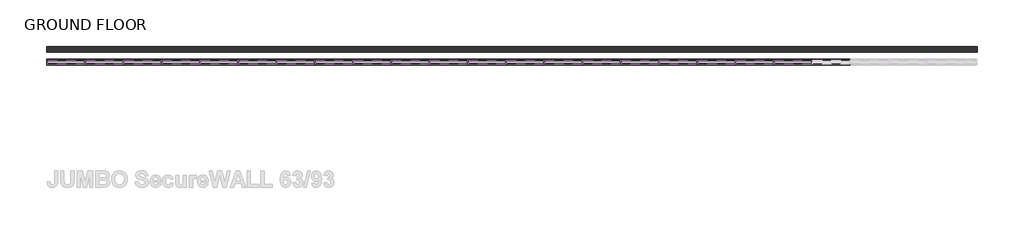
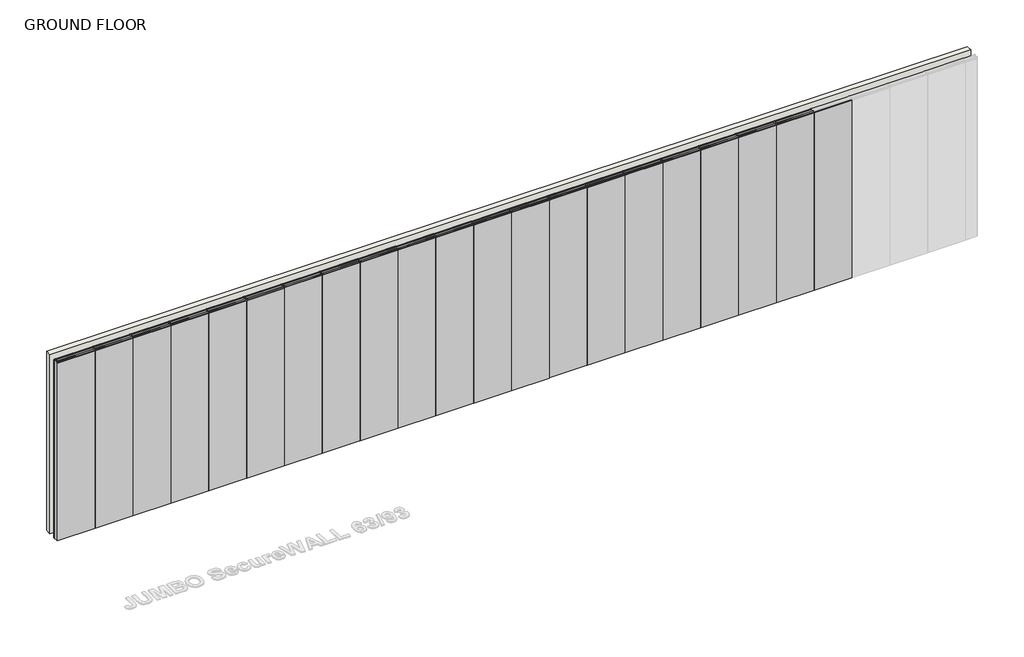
# One storey, part 1 of 2: 59 members, 21 plates, 1 wall.
"""IFC4 building model written with IfcOpenShell, lengths in millimetres."""

from ifc_helpers import new_model, si_unit, origin, origin_with_axes, place, context, project, spatial, polyline, outline, extrude, transform, mapped, element, save
from components import rectangular_mullion_stud_mullion_63mm_af775e70, rectangular_mullion_stud_mullion_63mm_2c4afd4c, rectangular_mullion_stud_mullion_63mm_ab3eab4e, rectangular_mullion_stud_mullion_63mm_08592bac, plate_2_layer_drywall_panels_with_galv_sheet_2_layer_15mm_8fcf15e8

model = new_model("IFC4")

# Units and contexts
model_context = context("Model", 3, world=origin())
ifc_project = project(units=[si_unit("LENGTHUNIT", "METRE", prefix="MILLI")], contexts=[model_context])

# Site, building, storey
site = spatial("IfcSite", under=ifc_project)
building = spatial("IfcBuilding", under=site)
storey = spatial("IfcBuildingStorey", under=building, Name="GROUND FLOOR", Elevation=0.0)

# Members
placement = place(None, origin())
rectangular_mullion_stud_mullion_63mm_shape = rectangular_mullion_stud_mullion_63mm_af775e70(model_context)
element("IfcMember", 1, ObjectType="Rectangular Mullion : Stud Mullion - 63mm", at=placement, inside=storey, context=model_context, shape_type="MappedRepresentation", body=[
    mapped(rectangular_mullion_stud_mullion_63mm_shape, transform((61654.5186508, -61621.4010443, 0.0), x_axis=(0.0, 0.0, -1.0), y_axis=(0.0, -1.0, 0.0), z_axis=(-1.0, 0.0, 0.0))),
])
element("IfcMember", 2, ObjectType="Rectangular Mullion : Stud Mullion - 63mm", at=placement, inside=storey, context=model_context, shape_type="MappedRepresentation", body=[
    mapped(rectangular_mullion_stud_mullion_63mm_shape, transform((62254.5186511, -61621.4010443, 0.0), x_axis=(0.0, 0.0, -1.0), y_axis=(0.0, -1.0, 0.0), z_axis=(-1.0, 0.0, 0.0))),
])
element("IfcMember", 3, ObjectType="Rectangular Mullion : Stud Mullion - 63mm", at=placement, inside=storey, context=model_context, shape_type="MappedRepresentation", body=[
    mapped(rectangular_mullion_stud_mullion_63mm_shape, transform((62854.5186511, -61621.4010443, 0.0), x_axis=(0.0, 0.0, -1.0), y_axis=(0.0, -1.0, 0.0), z_axis=(-1.0, 0.0, 0.0))),
])
element("IfcMember", 4, ObjectType="Rectangular Mullion : Stud Mullion - 63mm", at=placement, inside=storey, context=model_context, shape_type="MappedRepresentation", body=[
    mapped(rectangular_mullion_stud_mullion_63mm_shape, transform((63454.5186511, -61621.4010443, 0.0), x_axis=(0.0, 0.0, -1.0), y_axis=(0.0, -1.0, 0.0), z_axis=(-1.0, 0.0, 0.0))),
])
element("IfcMember", 5, ObjectType="Rectangular Mullion : Stud Mullion - 63mm", at=placement, inside=storey, context=model_context, shape_type="MappedRepresentation", body=[
    mapped(rectangular_mullion_stud_mullion_63mm_shape, transform((64054.5186511, -61621.4010443, 0.0), x_axis=(0.0, 0.0, -1.0), y_axis=(0.0, -1.0, 0.0), z_axis=(-1.0, 0.0, 0.0))),
])
element("IfcMember", 6, ObjectType="Rectangular Mullion : Stud Mullion - 63mm", at=placement, inside=storey, context=model_context, shape_type="MappedRepresentation", body=[
    mapped(rectangular_mullion_stud_mullion_63mm_shape, transform((64654.5186511, -61621.4010443, 0.0), x_axis=(0.0, 0.0, -1.0), y_axis=(0.0, -1.0, 0.0), z_axis=(-1.0, 0.0, 0.0))),
])
element("IfcMember", 7, ObjectType="Rectangular Mullion : Stud Mullion - 63mm", at=placement, inside=storey, context=model_context, shape_type="MappedRepresentation", body=[
    mapped(rectangular_mullion_stud_mullion_63mm_shape, transform((65254.5186511, -61621.4010443, 0.0), x_axis=(0.0, 0.0, -1.0), y_axis=(0.0, -1.0, 0.0), z_axis=(-1.0, 0.0, 0.0))),
])
element("IfcMember", 8, ObjectType="Rectangular Mullion : Stud Mullion - 63mm", at=placement, inside=storey, context=model_context, shape_type="MappedRepresentation", body=[
    mapped(rectangular_mullion_stud_mullion_63mm_shape, transform((65854.5186511, -61621.4010443, 0.0), x_axis=(0.0, 0.0, -1.0), y_axis=(0.0, -1.0, 0.0), z_axis=(-1.0, 0.0, 0.0))),
])
element("IfcMember", 9, ObjectType="Rectangular Mullion : Stud Mullion - 63mm", at=placement, inside=storey, context=model_context, shape_type="MappedRepresentation", body=[
    mapped(rectangular_mullion_stud_mullion_63mm_shape, transform((66454.5186511, -61621.4010443, 0.0), x_axis=(0.0, 0.0, -1.0), y_axis=(0.0, -1.0, 0.0), z_axis=(-1.0, 0.0, 0.0))),
])
element("IfcMember", 10, ObjectType="Rectangular Mullion : Stud Mullion - 63mm", at=placement, inside=storey, context=model_context, shape_type="MappedRepresentation", body=[
    mapped(rectangular_mullion_stud_mullion_63mm_shape, transform((67054.5186511, -61621.4010443, 0.0), x_axis=(0.0, 0.0, -1.0), y_axis=(0.0, -1.0, 0.0), z_axis=(-1.0, 0.0, 0.0))),
])
element("IfcMember", 11, ObjectType="Rectangular Mullion : Stud Mullion - 63mm", at=placement, inside=storey, context=model_context, shape_type="MappedRepresentation", body=[
    mapped(rectangular_mullion_stud_mullion_63mm_shape, transform((67654.5186511, -61621.4010443, 0.0), x_axis=(0.0, 0.0, -1.0), y_axis=(0.0, -1.0, 0.0), z_axis=(-1.0, 0.0, 0.0))),
])
element("IfcMember", 12, ObjectType="Rectangular Mullion : Stud Mullion - 63mm", at=placement, inside=storey, context=model_context, shape_type="MappedRepresentation", body=[
    mapped(rectangular_mullion_stud_mullion_63mm_shape, transform((68254.5186511, -61621.4010443, 0.0), x_axis=(0.0, 0.0, -1.0), y_axis=(0.0, -1.0, 0.0), z_axis=(-1.0, 0.0, 0.0))),
])
element("IfcMember", 13, ObjectType="Rectangular Mullion : Stud Mullion - 63mm", at=placement, inside=storey, context=model_context, shape_type="MappedRepresentation", body=[
    mapped(rectangular_mullion_stud_mullion_63mm_shape, transform((68854.5186511, -61621.4010443, 0.0), x_axis=(0.0, 0.0, -1.0), y_axis=(0.0, -1.0, 0.0), z_axis=(-1.0, 0.0, 0.0))),
])
element("IfcMember", 14, ObjectType="Rectangular Mullion : Stud Mullion - 63mm", at=placement, inside=storey, context=model_context, shape_type="MappedRepresentation", body=[
    mapped(rectangular_mullion_stud_mullion_63mm_shape, transform((69454.5186511, -61621.4010443, 0.0), x_axis=(0.0, 0.0, -1.0), y_axis=(0.0, -1.0, 0.0), z_axis=(-1.0, 0.0, 0.0))),
])
element("IfcMember", 15, ObjectType="Rectangular Mullion : Stud Mullion - 63mm", at=placement, inside=storey, context=model_context, shape_type="MappedRepresentation", body=[
    mapped(rectangular_mullion_stud_mullion_63mm_shape, transform((70054.5186511, -61621.4010443, 0.0), x_axis=(0.0, 0.0, -1.0), y_axis=(0.0, -1.0, 0.0), z_axis=(-1.0, 0.0, 0.0))),
])
element("IfcMember", 16, ObjectType="Rectangular Mullion : Stud Mullion - 63mm", at=placement, inside=storey, context=model_context, shape_type="MappedRepresentation", body=[
    mapped(rectangular_mullion_stud_mullion_63mm_shape, transform((70654.5186511, -61621.4010443, 0.0), x_axis=(0.0, 0.0, -1.0), y_axis=(0.0, -1.0, 0.0), z_axis=(-1.0, 0.0, 0.0))),
])
element("IfcMember", 17, ObjectType="Rectangular Mullion : Stud Mullion - 63mm", at=placement, inside=storey, context=model_context, shape_type="MappedRepresentation", body=[
    mapped(rectangular_mullion_stud_mullion_63mm_shape, transform((71254.5186511, -61621.4010443, 0.0), x_axis=(0.0, 0.0, -1.0), y_axis=(0.0, -1.0, 0.0), z_axis=(-1.0, 0.0, 0.0))),
])
element("IfcMember", 18, ObjectType="Rectangular Mullion : Stud Mullion - 63mm", at=placement, inside=storey, context=model_context, shape_type="MappedRepresentation", body=[
    mapped(rectangular_mullion_stud_mullion_63mm_shape, transform((71854.5186511, -61621.4010443, 0.0), x_axis=(0.0, 0.0, -1.0), y_axis=(0.0, -1.0, 0.0), z_axis=(-1.0, 0.0, 0.0))),
])
element("IfcMember", 19, ObjectType="Rectangular Mullion : Stud Mullion - 63mm", at=placement, inside=storey, context=model_context, shape_type="MappedRepresentation", body=[
    mapped(rectangular_mullion_stud_mullion_63mm_shape, transform((72454.5186511, -61621.4010443, 0.0), x_axis=(0.0, 0.0, -1.0), y_axis=(0.0, -1.0, 0.0), z_axis=(-1.0, 0.0, 0.0))),
])
element("IfcMember", 20, ObjectType="Rectangular Mullion : Stud Mullion - 63mm", at=placement, inside=storey, context=model_context, shape_type="MappedRepresentation", body=[
    mapped(rectangular_mullion_stud_mullion_63mm_shape, transform((73054.5186511, -61621.4010443, 0.0), x_axis=(0.0, 0.0, -1.0), y_axis=(0.0, -1.0, 0.0), z_axis=(-1.0, 0.0, 0.0))),
])
rectangular_mullion_stud_mullion_63mm_2_shape = rectangular_mullion_stud_mullion_63mm_2c4afd4c(model_context)
element("IfcMember", 21, ObjectType="Rectangular Mullion : Stud Mullion - 63mm", at=placement, inside=storey, context=model_context, shape_type="MappedRepresentation", body=[
    mapped(rectangular_mullion_stud_mullion_63mm_2_shape, transform((61635.5186508, -61621.4010443, 3000.0), x_axis=(-1.0, 0.0, 0.0), y_axis=(0.0, -1.0, 0.0), z_axis=(0.0, 0.0, 1.0))),
])
rectangular_mullion_stud_mullion_63mm_3_shape = rectangular_mullion_stud_mullion_63mm_ab3eab4e(model_context)
element("IfcMember", 22, ObjectType="Rectangular Mullion : Stud Mullion - 63mm", at=placement, inside=storey, context=model_context, shape_type="MappedRepresentation", body=[
    mapped(rectangular_mullion_stud_mullion_63mm_3_shape, transform((62235.5186511, -61621.4010443, 3000.0), x_axis=(0.0, 0.0, 1.0), y_axis=(0.0, -1.0, 0.0), z_axis=(1.0, 0.0, 0.0))),
])
element("IfcMember", 23, ObjectType="Rectangular Mullion : Stud Mullion - 63mm", at=placement, inside=storey, context=model_context, shape_type="MappedRepresentation", body=[
    mapped(rectangular_mullion_stud_mullion_63mm_3_shape, transform((62835.5186511, -61621.4010443, 3000.0), x_axis=(0.0, 0.0, 1.0), y_axis=(0.0, -1.0, 0.0), z_axis=(1.0, 0.0, 0.0))),
])
element("IfcMember", 24, ObjectType="Rectangular Mullion : Stud Mullion - 63mm", at=placement, inside=storey, context=model_context, shape_type="MappedRepresentation", body=[
    mapped(rectangular_mullion_stud_mullion_63mm_3_shape, transform((63435.5186511, -61621.4010443, 3000.0), x_axis=(0.0, 0.0, 1.0), y_axis=(0.0, -1.0, 0.0), z_axis=(1.0, 0.0, 0.0))),
])
element("IfcMember", 25, ObjectType="Rectangular Mullion : Stud Mullion - 63mm", at=placement, inside=storey, context=model_context, shape_type="MappedRepresentation", body=[
    mapped(rectangular_mullion_stud_mullion_63mm_3_shape, transform((64035.5186511, -61621.4010443, 3000.0), x_axis=(0.0, 0.0, 1.0), y_axis=(0.0, -1.0, 0.0), z_axis=(1.0, 0.0, 0.0))),
])
element("IfcMember", 26, ObjectType="Rectangular Mullion : Stud Mullion - 63mm", at=placement, inside=storey, context=model_context, shape_type="MappedRepresentation", body=[
    mapped(rectangular_mullion_stud_mullion_63mm_3_shape, transform((64635.5186511, -61621.4010443, 3000.0), x_axis=(0.0, 0.0, 1.0), y_axis=(0.0, -1.0, 0.0), z_axis=(1.0, 0.0, 0.0))),
])
element("IfcMember", 27, ObjectType="Rectangular Mullion : Stud Mullion - 63mm", at=placement, inside=storey, context=model_context, shape_type="MappedRepresentation", body=[
    mapped(rectangular_mullion_stud_mullion_63mm_3_shape, transform((65235.5186511, -61621.4010443, 3000.0), x_axis=(0.0, 0.0, 1.0), y_axis=(0.0, -1.0, 0.0), z_axis=(1.0, 0.0, 0.0))),
])
element("IfcMember", 28, ObjectType="Rectangular Mullion : Stud Mullion - 63mm", at=placement, inside=storey, context=model_context, shape_type="MappedRepresentation", body=[
    mapped(rectangular_mullion_stud_mullion_63mm_3_shape, transform((65835.5186511, -61621.4010443, 3000.0), x_axis=(0.0, 0.0, 1.0), y_axis=(0.0, -1.0, 0.0), z_axis=(1.0, 0.0, 0.0))),
])
element("IfcMember", 29, ObjectType="Rectangular Mullion : Stud Mullion - 63mm", at=placement, inside=storey, context=model_context, shape_type="MappedRepresentation", body=[
    mapped(rectangular_mullion_stud_mullion_63mm_3_shape, transform((66435.5186511, -61621.4010443, 3000.0), x_axis=(0.0, 0.0, 1.0), y_axis=(0.0, -1.0, 0.0), z_axis=(1.0, 0.0, 0.0))),
])
element("IfcMember", 30, ObjectType="Rectangular Mullion : Stud Mullion - 63mm", at=placement, inside=storey, context=model_context, shape_type="MappedRepresentation", body=[
    mapped(rectangular_mullion_stud_mullion_63mm_3_shape, transform((67035.5186511, -61621.4010443, 3000.0), x_axis=(0.0, 0.0, 1.0), y_axis=(0.0, -1.0, 0.0), z_axis=(1.0, 0.0, 0.0))),
])
element("IfcMember", 31, ObjectType="Rectangular Mullion : Stud Mullion - 63mm", at=placement, inside=storey, context=model_context, shape_type="MappedRepresentation", body=[
    mapped(rectangular_mullion_stud_mullion_63mm_3_shape, transform((67635.5186511, -61621.4010443, 3000.0), x_axis=(0.0, 0.0, 1.0), y_axis=(0.0, -1.0, 0.0), z_axis=(1.0, 0.0, 0.0))),
])
element("IfcMember", 32, ObjectType="Rectangular Mullion : Stud Mullion - 63mm", at=placement, inside=storey, context=model_context, shape_type="MappedRepresentation", body=[
    mapped(rectangular_mullion_stud_mullion_63mm_3_shape, transform((68235.5186511, -61621.4010443, 3000.0), x_axis=(0.0, 0.0, 1.0), y_axis=(0.0, -1.0, 0.0), z_axis=(1.0, 0.0, 0.0))),
])
element("IfcMember", 33, ObjectType="Rectangular Mullion : Stud Mullion - 63mm", at=placement, inside=storey, context=model_context, shape_type="MappedRepresentation", body=[
    mapped(rectangular_mullion_stud_mullion_63mm_3_shape, transform((68835.5186511, -61621.4010443, 3000.0), x_axis=(0.0, 0.0, 1.0), y_axis=(0.0, -1.0, 0.0), z_axis=(1.0, 0.0, 0.0))),
])
element("IfcMember", 34, ObjectType="Rectangular Mullion : Stud Mullion - 63mm", at=placement, inside=storey, context=model_context, shape_type="MappedRepresentation", body=[
    mapped(rectangular_mullion_stud_mullion_63mm_3_shape, transform((69435.5186511, -61621.4010443, 3000.0), x_axis=(0.0, 0.0, 1.0), y_axis=(0.0, -1.0, 0.0), z_axis=(1.0, 0.0, 0.0))),
])
element("IfcMember", 35, ObjectType="Rectangular Mullion : Stud Mullion - 63mm", at=placement, inside=storey, context=model_context, shape_type="MappedRepresentation", body=[
    mapped(rectangular_mullion_stud_mullion_63mm_3_shape, transform((70035.5186511, -61621.4010443, 3000.0), x_axis=(0.0, 0.0, 1.0), y_axis=(0.0, -1.0, 0.0), z_axis=(1.0, 0.0, 0.0))),
])
element("IfcMember", 36, ObjectType="Rectangular Mullion : Stud Mullion - 63mm", at=placement, inside=storey, context=model_context, shape_type="MappedRepresentation", body=[
    mapped(rectangular_mullion_stud_mullion_63mm_3_shape, transform((70635.5186511, -61621.4010443, 3000.0), x_axis=(0.0, 0.0, 1.0), y_axis=(0.0, -1.0, 0.0), z_axis=(1.0, 0.0, 0.0))),
])
element("IfcMember", 37, ObjectType="Rectangular Mullion : Stud Mullion - 63mm", at=placement, inside=storey, context=model_context, shape_type="MappedRepresentation", body=[
    mapped(rectangular_mullion_stud_mullion_63mm_3_shape, transform((71235.5186511, -61621.4010443, 3000.0), x_axis=(0.0, 0.0, 1.0), y_axis=(0.0, -1.0, 0.0), z_axis=(1.0, 0.0, 0.0))),
])
element("IfcMember", 38, ObjectType="Rectangular Mullion : Stud Mullion - 63mm", at=placement, inside=storey, context=model_context, shape_type="MappedRepresentation", body=[
    mapped(rectangular_mullion_stud_mullion_63mm_3_shape, transform((71835.5186511, -61621.4010443, 3000.0), x_axis=(0.0, 0.0, 1.0), y_axis=(0.0, -1.0, 0.0), z_axis=(1.0, 0.0, 0.0))),
])
element("IfcMember", 39, ObjectType="Rectangular Mullion : Stud Mullion - 63mm", at=placement, inside=storey, context=model_context, shape_type="MappedRepresentation", body=[
    mapped(rectangular_mullion_stud_mullion_63mm_3_shape, transform((72435.5186511, -61621.4010443, 3000.0), x_axis=(0.0, 0.0, 1.0), y_axis=(0.0, -1.0, 0.0), z_axis=(1.0, 0.0, 0.0))),
])
element("IfcMember", 40, ObjectType="Rectangular Mullion : Stud Mullion - 63mm", at=placement, inside=storey, context=model_context, shape_type="MappedRepresentation", body=[
    mapped(rectangular_mullion_stud_mullion_63mm_3_shape, transform((73035.5186511, -61621.4010443, 3000.0), x_axis=(0.0, 0.0, 1.0), y_axis=(0.0, -1.0, 0.0), z_axis=(1.0, 0.0, 0.0))),
])
element("IfcMember", 41, ObjectType="Rectangular Mullion : Stud Mullion - 63mm", at=placement, inside=storey, context=model_context, shape_type="MappedRepresentation", body=[
    mapped(rectangular_mullion_stud_mullion_63mm_3_shape, transform((73635.5186511, -61621.4010443, 3000.0), x_axis=(0.0, 0.0, 1.0), y_axis=(0.0, -1.0, 0.0), z_axis=(1.0, 0.0, 0.0))),
])
rectangular_mullion_stud_mullion_63mm_4_shape = rectangular_mullion_stud_mullion_63mm_08592bac(model_context)
element("IfcMember", 42, ObjectType="Rectangular Mullion : Stud Mullion - 63mm", at=placement, inside=storey, context=model_context, shape_type="MappedRepresentation", body=[
    mapped(rectangular_mullion_stud_mullion_63mm_4_shape, transform((62245.0186511, -61621.4010443, 0.0), x_axis=(1.0, 0.0, 0.0), y_axis=(0.0, -1.0, 0.0), z_axis=(0.0, 0.0, -1.0))),
])
element("IfcMember", 43, ObjectType="Rectangular Mullion : Stud Mullion - 63mm", at=placement, inside=storey, context=model_context, shape_type="MappedRepresentation", body=[
    mapped(rectangular_mullion_stud_mullion_63mm_4_shape, transform((62845.0186511, -61621.4010443, 0.0), x_axis=(1.0, 0.0, 0.0), y_axis=(0.0, -1.0, 0.0), z_axis=(0.0, 0.0, -1.0))),
])
element("IfcMember", 44, ObjectType="Rectangular Mullion : Stud Mullion - 63mm", at=placement, inside=storey, context=model_context, shape_type="MappedRepresentation", body=[
    mapped(rectangular_mullion_stud_mullion_63mm_4_shape, transform((63445.0186511, -61621.4010443, 0.0), x_axis=(1.0, 0.0, 0.0), y_axis=(0.0, -1.0, 0.0), z_axis=(0.0, 0.0, -1.0))),
])
element("IfcMember", 45, ObjectType="Rectangular Mullion : Stud Mullion - 63mm", at=placement, inside=storey, context=model_context, shape_type="MappedRepresentation", body=[
    mapped(rectangular_mullion_stud_mullion_63mm_4_shape, transform((64045.0186511, -61621.4010443, 0.0), x_axis=(1.0, 0.0, 0.0), y_axis=(0.0, -1.0, 0.0), z_axis=(0.0, 0.0, -1.0))),
])
element("IfcMember", 46, ObjectType="Rectangular Mullion : Stud Mullion - 63mm", at=placement, inside=storey, context=model_context, shape_type="MappedRepresentation", body=[
    mapped(rectangular_mullion_stud_mullion_63mm_4_shape, transform((64645.0186511, -61621.4010443, 0.0), x_axis=(1.0, 0.0, 0.0), y_axis=(0.0, -1.0, 0.0), z_axis=(0.0, 0.0, -1.0))),
])
element("IfcMember", 47, ObjectType="Rectangular Mullion : Stud Mullion - 63mm", at=placement, inside=storey, context=model_context, shape_type="MappedRepresentation", body=[
    mapped(rectangular_mullion_stud_mullion_63mm_4_shape, transform((65245.0186511, -61621.4010443, 0.0), x_axis=(1.0, 0.0, 0.0), y_axis=(0.0, -1.0, 0.0), z_axis=(0.0, 0.0, -1.0))),
])
element("IfcMember", 48, ObjectType="Rectangular Mullion : Stud Mullion - 63mm", at=placement, inside=storey, context=model_context, shape_type="MappedRepresentation", body=[
    mapped(rectangular_mullion_stud_mullion_63mm_4_shape, transform((65845.0186511, -61621.4010443, 0.0), x_axis=(1.0, 0.0, 0.0), y_axis=(0.0, -1.0, 0.0), z_axis=(0.0, 0.0, -1.0))),
])
element("IfcMember", 49, ObjectType="Rectangular Mullion : Stud Mullion - 63mm", at=placement, inside=storey, context=model_context, shape_type="MappedRepresentation", body=[
    mapped(rectangular_mullion_stud_mullion_63mm_4_shape, transform((66445.0186511, -61621.4010443, 0.0), x_axis=(1.0, 0.0, 0.0), y_axis=(0.0, -1.0, 0.0), z_axis=(0.0, 0.0, -1.0))),
])
element("IfcMember", 50, ObjectType="Rectangular Mullion : Stud Mullion - 63mm", at=placement, inside=storey, context=model_context, shape_type="MappedRepresentation", body=[
    mapped(rectangular_mullion_stud_mullion_63mm_4_shape, transform((67045.0186511, -61621.4010443, 0.0), x_axis=(1.0, 0.0, 0.0), y_axis=(0.0, -1.0, 0.0), z_axis=(0.0, 0.0, -1.0))),
])
element("IfcMember", 51, ObjectType="Rectangular Mullion : Stud Mullion - 63mm", at=placement, inside=storey, context=model_context, shape_type="MappedRepresentation", body=[
    mapped(rectangular_mullion_stud_mullion_63mm_4_shape, transform((67645.0186511, -61621.4010443, 0.0), x_axis=(1.0, 0.0, 0.0), y_axis=(0.0, -1.0, 0.0), z_axis=(0.0, 0.0, -1.0))),
])
element("IfcMember", 52, ObjectType="Rectangular Mullion : Stud Mullion - 63mm", at=placement, inside=storey, context=model_context, shape_type="MappedRepresentation", body=[
    mapped(rectangular_mullion_stud_mullion_63mm_4_shape, transform((68245.0186511, -61621.4010443, 0.0), x_axis=(1.0, 0.0, 0.0), y_axis=(0.0, -1.0, 0.0), z_axis=(0.0, 0.0, -1.0))),
])
element("IfcMember", 53, ObjectType="Rectangular Mullion : Stud Mullion - 63mm", at=placement, inside=storey, context=model_context, shape_type="MappedRepresentation", body=[
    mapped(rectangular_mullion_stud_mullion_63mm_4_shape, transform((68845.0186511, -61621.4010443, 0.0), x_axis=(1.0, 0.0, 0.0), y_axis=(0.0, -1.0, 0.0), z_axis=(0.0, 0.0, -1.0))),
])
element("IfcMember", 54, ObjectType="Rectangular Mullion : Stud Mullion - 63mm", at=placement, inside=storey, context=model_context, shape_type="MappedRepresentation", body=[
    mapped(rectangular_mullion_stud_mullion_63mm_4_shape, transform((69445.0186511, -61621.4010443, 0.0), x_axis=(1.0, 0.0, 0.0), y_axis=(0.0, -1.0, 0.0), z_axis=(0.0, 0.0, -1.0))),
])
element("IfcMember", 55, ObjectType="Rectangular Mullion : Stud Mullion - 63mm", at=placement, inside=storey, context=model_context, shape_type="MappedRepresentation", body=[
    mapped(rectangular_mullion_stud_mullion_63mm_4_shape, transform((70045.0186511, -61621.4010443, 0.0), x_axis=(1.0, 0.0, 0.0), y_axis=(0.0, -1.0, 0.0), z_axis=(0.0, 0.0, -1.0))),
])
element("IfcMember", 56, ObjectType="Rectangular Mullion : Stud Mullion - 63mm", at=placement, inside=storey, context=model_context, shape_type="MappedRepresentation", body=[
    mapped(rectangular_mullion_stud_mullion_63mm_4_shape, transform((70645.0186511, -61621.4010443, 0.0), x_axis=(1.0, 0.0, 0.0), y_axis=(0.0, -1.0, 0.0), z_axis=(0.0, 0.0, -1.0))),
])
element("IfcMember", 57, ObjectType="Rectangular Mullion : Stud Mullion - 63mm", at=placement, inside=storey, context=model_context, shape_type="MappedRepresentation", body=[
    mapped(rectangular_mullion_stud_mullion_63mm_4_shape, transform((71245.0186511, -61621.4010443, 0.0), x_axis=(1.0, 0.0, 0.0), y_axis=(0.0, -1.0, 0.0), z_axis=(0.0, 0.0, -1.0))),
])
element("IfcMember", 58, ObjectType="Rectangular Mullion : Stud Mullion - 63mm", at=placement, inside=storey, context=model_context, shape_type="MappedRepresentation", body=[
    mapped(rectangular_mullion_stud_mullion_63mm_4_shape, transform((71845.0186511, -61621.4010443, 0.0), x_axis=(1.0, 0.0, 0.0), y_axis=(0.0, -1.0, 0.0), z_axis=(0.0, 0.0, -1.0))),
])
element("IfcMember", 59, ObjectType="Rectangular Mullion : Stud Mullion - 63mm", at=placement, inside=storey, context=model_context, shape_type="MappedRepresentation", body=[
    mapped(rectangular_mullion_stud_mullion_63mm_4_shape, transform((72445.0186511, -61621.4010443, 0.0), x_axis=(1.0, 0.0, 0.0), y_axis=(0.0, -1.0, 0.0), z_axis=(0.0, 0.0, -1.0))),
])

# Plates
plate_2_layer_drywall_panels_with_galv_sheet_2_layer_15mm_shape = plate_2_layer_drywall_panels_with_galv_sheet_2_layer_15mm_8fcf15e8(model_context)
element("IfcPlate", 60, ObjectType="2 Layer - Drywall Panels with Galv sheet : 2 Layer - 15mm Drywall Panels 93mm", at=placement, inside=storey, context=model_context, shape_type="MappedRepresentation", body=[
    mapped(plate_2_layer_drywall_panels_with_galv_sheet_2_layer_15mm_shape, transform((61936.318651, -61621.4010443, 1.6), x_axis=(1.0, 0.0, 0.0), y_axis=(0.0, 1.0, 0.0), z_axis=(0.0, 0.0, 1.0))),
])
element("IfcPlate", 61, ObjectType="2 Layer - Drywall Panels with Galv sheet : 2 Layer - 15mm Drywall Panels 93mm", at=placement, inside=storey, context=model_context, shape_type="MappedRepresentation", body=[
    mapped(plate_2_layer_drywall_panels_with_galv_sheet_2_layer_15mm_shape, transform((62536.3186511, -61621.4010443, 1.6), x_axis=(1.0, 0.0, 0.0), y_axis=(0.0, 1.0, 0.0), z_axis=(0.0, 0.0, 1.0))),
])
element("IfcPlate", 62, ObjectType="2 Layer - Drywall Panels with Galv sheet : 2 Layer - 15mm Drywall Panels 93mm", at=placement, inside=storey, context=model_context, shape_type="MappedRepresentation", body=[
    mapped(plate_2_layer_drywall_panels_with_galv_sheet_2_layer_15mm_shape, transform((63136.3186511, -61621.4010443, 1.6), x_axis=(1.0, 0.0, 0.0), y_axis=(0.0, 1.0, 0.0), z_axis=(0.0, 0.0, 1.0))),
])
element("IfcPlate", 63, ObjectType="2 Layer - Drywall Panels with Galv sheet : 2 Layer - 15mm Drywall Panels 93mm", at=placement, inside=storey, context=model_context, shape_type="MappedRepresentation", body=[
    mapped(plate_2_layer_drywall_panels_with_galv_sheet_2_layer_15mm_shape, transform((63736.3186511, -61621.4010443, 1.6), x_axis=(1.0, 0.0, 0.0), y_axis=(0.0, 1.0, 0.0), z_axis=(0.0, 0.0, 1.0))),
])
element("IfcPlate", 64, ObjectType="2 Layer - Drywall Panels with Galv sheet : 2 Layer - 15mm Drywall Panels 93mm", at=placement, inside=storey, context=model_context, shape_type="MappedRepresentation", body=[
    mapped(plate_2_layer_drywall_panels_with_galv_sheet_2_layer_15mm_shape, transform((64336.3186511, -61621.4010443, 1.6), x_axis=(1.0, 0.0, 0.0), y_axis=(0.0, 1.0, 0.0), z_axis=(0.0, 0.0, 1.0))),
])
element("IfcPlate", 65, ObjectType="2 Layer - Drywall Panels with Galv sheet : 2 Layer - 15mm Drywall Panels 93mm", at=placement, inside=storey, context=model_context, shape_type="MappedRepresentation", body=[
    mapped(plate_2_layer_drywall_panels_with_galv_sheet_2_layer_15mm_shape, transform((64936.3186511, -61621.4010443, 1.6), x_axis=(1.0, 0.0, 0.0), y_axis=(0.0, 1.0, 0.0), z_axis=(0.0, 0.0, 1.0))),
])
element("IfcPlate", 66, ObjectType="2 Layer - Drywall Panels with Galv sheet : 2 Layer - 15mm Drywall Panels 93mm", at=placement, inside=storey, context=model_context, shape_type="MappedRepresentation", body=[
    mapped(plate_2_layer_drywall_panels_with_galv_sheet_2_layer_15mm_shape, transform((65536.3186511, -61621.4010443, 1.6), x_axis=(1.0, 0.0, 0.0), y_axis=(0.0, 1.0, 0.0), z_axis=(0.0, 0.0, 1.0))),
])
element("IfcPlate", 67, ObjectType="2 Layer - Drywall Panels with Galv sheet : 2 Layer - 15mm Drywall Panels 93mm", at=placement, inside=storey, context=model_context, shape_type="MappedRepresentation", body=[
    mapped(plate_2_layer_drywall_panels_with_galv_sheet_2_layer_15mm_shape, transform((66136.3186511, -61621.4010443, 1.6), x_axis=(1.0, 0.0, 0.0), y_axis=(0.0, 1.0, 0.0), z_axis=(0.0, 0.0, 1.0))),
])
element("IfcPlate", 68, ObjectType="2 Layer - Drywall Panels with Galv sheet : 2 Layer - 15mm Drywall Panels 93mm", at=placement, inside=storey, context=model_context, shape_type="MappedRepresentation", body=[
    mapped(plate_2_layer_drywall_panels_with_galv_sheet_2_layer_15mm_shape, transform((66736.3186511, -61621.4010443, 1.6), x_axis=(1.0, 0.0, 0.0), y_axis=(0.0, 1.0, 0.0), z_axis=(0.0, 0.0, 1.0))),
])
element("IfcPlate", 69, ObjectType="2 Layer - Drywall Panels with Galv sheet : 2 Layer - 15mm Drywall Panels 93mm", at=placement, inside=storey, context=model_context, shape_type="MappedRepresentation", body=[
    mapped(plate_2_layer_drywall_panels_with_galv_sheet_2_layer_15mm_shape, transform((67336.3186511, -61621.4010443, 1.6), x_axis=(1.0, 0.0, 0.0), y_axis=(0.0, 1.0, 0.0), z_axis=(0.0, 0.0, 1.0))),
])
element("IfcPlate", 70, ObjectType="2 Layer - Drywall Panels with Galv sheet : 2 Layer - 15mm Drywall Panels 93mm", at=placement, inside=storey, context=model_context, shape_type="MappedRepresentation", body=[
    mapped(plate_2_layer_drywall_panels_with_galv_sheet_2_layer_15mm_shape, transform((67936.3186511, -61621.4010443, 1.6), x_axis=(1.0, 0.0, 0.0), y_axis=(0.0, 1.0, 0.0), z_axis=(0.0, 0.0, 1.0))),
])
element("IfcPlate", 71, ObjectType="2 Layer - Drywall Panels with Galv sheet : 2 Layer - 15mm Drywall Panels 93mm", at=placement, inside=storey, context=model_context, shape_type="MappedRepresentation", body=[
    mapped(plate_2_layer_drywall_panels_with_galv_sheet_2_layer_15mm_shape, transform((68536.3186511, -61621.4010443, 1.6), x_axis=(1.0, 0.0, 0.0), y_axis=(0.0, 1.0, 0.0), z_axis=(0.0, 0.0, 1.0))),
])
element("IfcPlate", 72, ObjectType="2 Layer - Drywall Panels with Galv sheet : 2 Layer - 15mm Drywall Panels 93mm", at=placement, inside=storey, context=model_context, shape_type="MappedRepresentation", body=[
    mapped(plate_2_layer_drywall_panels_with_galv_sheet_2_layer_15mm_shape, transform((69136.3186511, -61621.4010443, 1.6), x_axis=(1.0, 0.0, 0.0), y_axis=(0.0, 1.0, 0.0), z_axis=(0.0, 0.0, 1.0))),
])
element("IfcPlate", 73, ObjectType="2 Layer - Drywall Panels with Galv sheet : 2 Layer - 15mm Drywall Panels 93mm", at=placement, inside=storey, context=model_context, shape_type="MappedRepresentation", body=[
    mapped(plate_2_layer_drywall_panels_with_galv_sheet_2_layer_15mm_shape, transform((69736.3186511, -61621.4010443, 1.6), x_axis=(1.0, 0.0, 0.0), y_axis=(0.0, 1.0, 0.0), z_axis=(0.0, 0.0, 1.0))),
])
element("IfcPlate", 74, ObjectType="2 Layer - Drywall Panels with Galv sheet : 2 Layer - 15mm Drywall Panels 93mm", at=placement, inside=storey, context=model_context, shape_type="MappedRepresentation", body=[
    mapped(plate_2_layer_drywall_panels_with_galv_sheet_2_layer_15mm_shape, transform((70336.3186511, -61621.4010443, 1.6), x_axis=(1.0, 0.0, 0.0), y_axis=(0.0, 1.0, 0.0), z_axis=(0.0, 0.0, 1.0))),
])
element("IfcPlate", 75, ObjectType="2 Layer - Drywall Panels with Galv sheet : 2 Layer - 15mm Drywall Panels 93mm", at=placement, inside=storey, context=model_context, shape_type="MappedRepresentation", body=[
    mapped(plate_2_layer_drywall_panels_with_galv_sheet_2_layer_15mm_shape, transform((70936.3186511, -61621.4010443, 1.6), x_axis=(1.0, 0.0, 0.0), y_axis=(0.0, 1.0, 0.0), z_axis=(0.0, 0.0, 1.0))),
])
element("IfcPlate", 76, ObjectType="2 Layer - Drywall Panels with Galv sheet : 2 Layer - 15mm Drywall Panels 93mm", at=placement, inside=storey, context=model_context, shape_type="MappedRepresentation", body=[
    mapped(plate_2_layer_drywall_panels_with_galv_sheet_2_layer_15mm_shape, transform((71536.3186511, -61621.4010443, 1.6), x_axis=(1.0, 0.0, 0.0), y_axis=(0.0, 1.0, 0.0), z_axis=(0.0, 0.0, 1.0))),
])
element("IfcPlate", 77, ObjectType="2 Layer - Drywall Panels with Galv sheet : 2 Layer - 15mm Drywall Panels 93mm", at=placement, inside=storey, context=model_context, shape_type="MappedRepresentation", body=[
    mapped(plate_2_layer_drywall_panels_with_galv_sheet_2_layer_15mm_shape, transform((72136.3186511, -61621.4010443, 1.6), x_axis=(1.0, 0.0, 0.0), y_axis=(0.0, 1.0, 0.0), z_axis=(0.0, 0.0, 1.0))),
])
element("IfcPlate", 78, ObjectType="2 Layer - Drywall Panels with Galv sheet : 2 Layer - 15mm Drywall Panels 93mm", at=placement, inside=storey, context=model_context, shape_type="MappedRepresentation", body=[
    mapped(plate_2_layer_drywall_panels_with_galv_sheet_2_layer_15mm_shape, transform((72736.3186511, -61621.4010443, 1.6), x_axis=(1.0, 0.0, 0.0), y_axis=(0.0, 1.0, 0.0), z_axis=(0.0, 0.0, 1.0))),
])
element("IfcPlate", 79, ObjectType="2 Layer - Drywall Panels with Galv sheet : 2 Layer - 15mm Drywall Panels 93mm", at=placement, inside=storey, context=model_context, shape_type="MappedRepresentation", body=[
    mapped(plate_2_layer_drywall_panels_with_galv_sheet_2_layer_15mm_shape, transform((73336.3186511, -61621.4010443, 1.6), x_axis=(1.0, 0.0, 0.0), y_axis=(0.0, 1.0, 0.0), z_axis=(0.0, 0.0, 1.0))),
])
element("IfcPlate", 80, ObjectType="2 Layer - Drywall Panels with Galv sheet : 2 Layer - 15mm Drywall Panels 93mm", at=placement, inside=storey, context=model_context, shape_type="MappedRepresentation", body=[
    mapped(plate_2_layer_drywall_panels_with_galv_sheet_2_layer_15mm_shape, transform((73936.3186511, -61621.4010443, 1.6), x_axis=(1.0, 0.0, 0.0), y_axis=(0.0, 1.0, 0.0), z_axis=(0.0, 0.0, 1.0))),
])

# Wall
element("IfcWall", 81, ObjectType="PW12 - JUMBO SecureWALL 63/93", at=placement, inside=storey, context=model_context, shape_type="SweptSolid", body=[
    extrude(outline(polyline([(76235.5186508, -61467.9010443), (61635.5186508, -61467.9010443), (61635.5186508, -61374.9010443), (76235.5186508, -61374.9010443), (76235.5186508, -61467.9010443)])), origin_with_axes(), (0.0, 0.0, 1.0), 3000.0),
])

save(model, "model.ifc")
